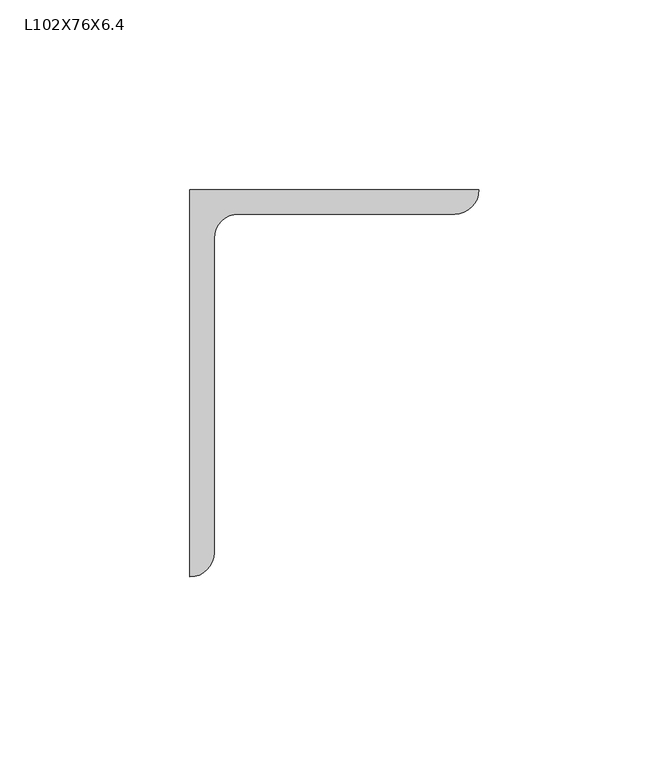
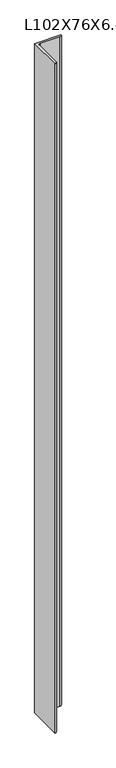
"""IFC4 building model written with IfcOpenShell, lengths in millimetres: column geometry, Уголок-Колонна : L102X76X6.4."""

from ifc_helpers import new_model, si_unit, point, frame_2d, origin, origin_with_axes, place, context, project, spatial, polyline, circle_curve, trimmed, segment, composite_curve, outline, extrude, source, transform, mapped, element, save


def l102x76x6_4_4a3fd003(model_context):
    return source(origin(), model_context, "Body", "SweptSolid", [
        extrude(outline(composite_curve([segment(trimmed(circle_curve(frame_2d((51.4, 31.0)), 6.4), [point((57.8, 31.0))], [point((51.4, 24.6))], False, "CARTESIAN"), True, "CONTINUOUS"), segment(polyline([(51.4, 24.6), (-5.6, 24.6)]), True, "CONTINUOUS"), segment(trimmed(circle_curve(frame_2d((-5.6, 18.2)), 6.4), [point((-5.6, 24.6))], [point((-12.0, 18.2))], True, "CARTESIAN"), True, "CONTINUOUS"), segment(polyline([(-12.0, 18.2), (-12.0, -64.6)]), True, "CONTINUOUS"), segment(trimmed(circle_curve(frame_2d((-18.4, -64.6)), 6.4), [point((-12.0, -64.6))], [point((-18.4, -71.0))], False, "CARTESIAN"), True, "CONTINUOUS"), segment(polyline([(-18.4, -71.0), (-18.4, 31.0), (57.8, 31.0)]), True, "CONTINUOUS")], self_intersect=False)), origin_with_axes(), (0.0, 0.0, 1.0), 2048.0),
    ])


if __name__ == "__main__":
    model = new_model("IFC4")
    model_context = context("Model", 3, world=origin())
    ifc_project = project(units=[si_unit("LENGTHUNIT", "METRE", prefix="MILLI")], contexts=[model_context])
    site = spatial("IfcSite", under=ifc_project)
    building = spatial("IfcBuilding", under=site)
    placement = place(None, origin())
    l102x76x6_4_shape = l102x76x6_4_4a3fd003(model_context)
    element("IfcColumn", 1, ObjectType="Уголок-Колонна : L102X76X6.4", at=placement, inside=building, context=model_context, shape_type="MappedRepresentation", body=[
        mapped(l102x76x6_4_shape, transform((0.0, 0.0, 0.0), x_axis=(1.0, 0.0, 0.0), y_axis=(0.0, 1.0, 0.0), z_axis=(0.0, 0.0, 1.0))),
    ])
    save(model, "model.ifc")
